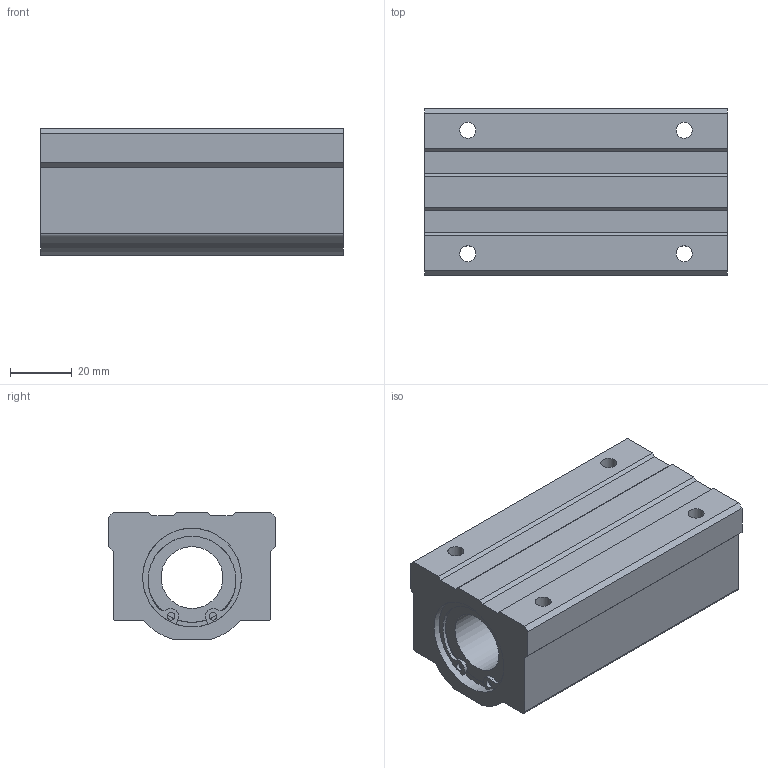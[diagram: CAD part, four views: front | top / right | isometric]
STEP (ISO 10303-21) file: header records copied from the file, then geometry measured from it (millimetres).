
FILE_DESCRIPTION((''),'2;1');
FILE_NAME('D:\製品 (図面)\カタログ用3D\メンテナンスフリー関連\STEP形式\LHW-MF\LHW20MF.stp','2010-06-01T16:10:29',('Tsuchiya'),(''),'Autodesk Inventor 10','Autodesk Inventor 10','');
FILE_SCHEMA(('AUTOMOTIVE_DESIGN { 1 0 10303 214 1 1 1 1 }'));
Length unit declared in the file: millimetre
Products named in the file (1): LHW20MF
Bounding box: 98 x 54 x 41 mm (x, y, z)
Volume: 153488 mm3; surface area: 30567 mm2
Topology: 1 solids, 3 shells, 81 faces, 215 edges, 138 vertices
Faces by surface type: plane 44, cylinder 20, bspline 17
Full cylindrical faces by diameter (mm): 2.5 x2, 20 x1, 29 x2, 30.3 x2, 32 x4
Entity records: 2548 total; most frequent: CARTESIAN_POINT 599, DIRECTION 410, ORIENTED_EDGE 372, EDGE_CURVE 186, AXIS2_PLACEMENT_3D 159, VERTEX_POINT 126, EDGE_LOOP 118, CIRCLE 94
